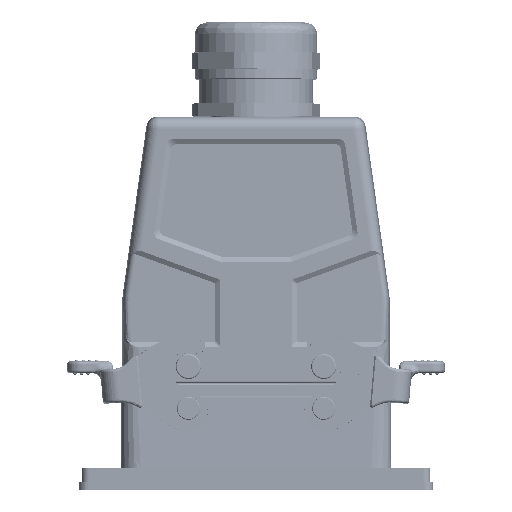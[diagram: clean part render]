
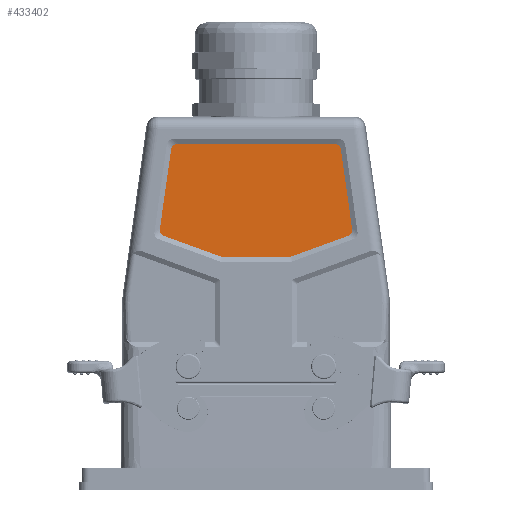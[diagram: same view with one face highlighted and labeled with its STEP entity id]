
A CAD part, top view. The second image highlights one B-rep face of the part: STEP entity #433402.
In plain terms, the highlighted planar face has unit normal (0, 0, 1).
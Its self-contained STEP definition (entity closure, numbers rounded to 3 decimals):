
#4631 = B_SPLINE_CURVE_WITH_KNOTS ( 'NONE', 3,
 ( #281754, #416652, #546030, #537526, #457055, #327613 ),
 .UNSPECIFIED., .F., .F.,
 ( 4, 2, 4 ),
 ( 0., 0.5, 1. ),
 .UNSPECIFIED. ) ;
#9378 = ORIENTED_EDGE ( 'NONE', *, *, #182710, .T. ) ;
#16621 = VERTEX_POINT ( 'NONE', #396718 ) ;
#20631 = CARTESIAN_POINT ( 'NONE',  ( 11.754, -2.268, 40.25 ) ) ;
#24154 = EDGE_CURVE ( 'NONE', #340725, #266696, #428857, .T. ) ;
#43974 = CARTESIAN_POINT ( 'NONE',  ( 33.7, 7.667, 40.25 ) ) ;
#57334 = CARTESIAN_POINT ( 'NONE',  ( 12.609, -2.117, 40.25 ) ) ;
#58413 = VERTEX_POINT ( 'NONE', #161929 ) ;
#61336 = CARTESIAN_POINT ( 'NONE',  ( -32.08, 4.97, 40.25 ) ) ;
#70928 = CARTESIAN_POINT ( 'NONE',  ( -11.754, -2.268, 40.25 ) ) ;
#71119 = B_SPLINE_CURVE_WITH_KNOTS ( 'NONE', 3,
 ( #20631, #491788, #144024, #100966 ),
 .UNSPECIFIED., .F., .F.,
 ( 4, 4 ),
 ( 0., 1. ),
 .UNSPECIFIED. ) ;
#71508 = CARTESIAN_POINT ( 'NONE',  ( -29.843, 35.116, 40.25 ) ) ;
#74314 = CARTESIAN_POINT ( 'NONE',  ( -29.744, 35.813, 40.25 ) ) ;
#76963 = CARTESIAN_POINT ( 'NONE',  ( 12.609, -2.117, 40.25 ) ) ;
#85121 = DIRECTION ( 'NONE',  ( 0., 0., 1. ) ) ;
#92806 = CARTESIAN_POINT ( 'NONE',  ( 33.7, 7.667, 40.25 ) ) ;
#98076 = ORIENTED_EDGE ( 'NONE', *, *, #476544, .T. ) ;
#100966 = CARTESIAN_POINT ( 'NONE',  ( 12.609, -2.117, 40.25 ) ) ;
#106836 = ORIENTED_EDGE ( 'NONE', *, *, #154645, .T. ) ;
#108071 = VECTOR ( 'NONE', #232402, 1000. ) ;
#108833 = LINE ( 'NONE', #57334, #108071 ) ;
#112737 = CARTESIAN_POINT ( 'NONE',  ( -32.698, 5.195, 40.25 ) ) ;
#114418 = CARTESIAN_POINT ( 'NONE',  ( -29.843, 35.116, 40.25 ) ) ;
#120089 = DIRECTION ( 'NONE',  ( -0.139, -0.99, 0. ) ) ;
#124505 = VERTEX_POINT ( 'NONE', #343856 ) ;
#129305 = CARTESIAN_POINT ( 'NONE',  ( 29.843, 35.116, 40.25 ) ) ;
#132972 = CARTESIAN_POINT ( 'NONE',  ( 33.699, 6.459, 40.25 ) ) ;
#144024 = CARTESIAN_POINT ( 'NONE',  ( 12.333, -2.218, 40.25 ) ) ;
#150184 = LINE ( 'NONE', #546677, #164634 ) ;
#154645 = EDGE_CURVE ( 'NONE', #291659, #58413, #4631, .T. ) ;
#157530 = EDGE_CURVE ( 'NONE', #163061, #340725, #508096, .T. ) ;
#159531 = CARTESIAN_POINT ( 'NONE',  ( -29.843, 35.116, 40.25 ) ) ;
#160443 = CARTESIAN_POINT ( 'NONE',  ( -28.07, 37.268, 40.25 ) ) ;
#161929 = CARTESIAN_POINT ( 'NONE',  ( 27.367, 37.268, 40.25 ) ) ;
#162118 = CARTESIAN_POINT ( 'NONE',  ( 33.7, 7.667, 40.25 ) ) ;
#163061 = VERTEX_POINT ( 'NONE', #159531 ) ;
#164634 = VECTOR ( 'NONE', #422940, 1000. ) ;
#168449 = DIRECTION ( 'NONE',  ( 1., 0., 0. ) ) ;
#181778 = CARTESIAN_POINT ( 'NONE',  ( 32.697, 5.194, 40.25 ) ) ;
#182710 = EDGE_CURVE ( 'NONE', #16621, #163061, #409835, .T. ) ;
#187593 = CARTESIAN_POINT ( 'NONE',  ( -31.046, 37.268, 40.25 ) ) ;
#187655 = VECTOR ( 'NONE', #256547, 1000. ) ;
#195249 = CARTESIAN_POINT ( 'NONE',  ( 33.144, 5.538, 40.25 ) ) ;
#198929 = VECTOR ( 'NONE', #526894, 1000. ) ;
#202617 = EDGE_CURVE ( 'NONE', #58413, #16621, #449108, .T. ) ;
#216999 = ORIENTED_EDGE ( 'NONE', *, *, #270279, .T. ) ;
#231857 = EDGE_CURVE ( 'NONE', #538833, #367879, #108833, .T. ) ;
#232402 = DIRECTION ( 'NONE',  ( 0.94, 0.342, 0. ) ) ;
#233542 = CARTESIAN_POINT ( 'NONE',  ( -33.698, 6.46, 40.25 ) ) ;
#234629 = AXIS2_PLACEMENT_3D ( 'NONE', #562028, #85121, #168449 ) ;
#235344 = EDGE_CURVE ( 'NONE', #266696, #437645, #150184, .T. ) ;
#248963 = LINE ( 'NONE', #280800, #260336 ) ;
#254690 = PLANE ( 'NONE',  #234629 ) ;
#256547 = DIRECTION ( 'NONE',  ( -0.139, 0.99, 0. ) ) ;
#260336 = VECTOR ( 'NONE', #329483, 1000. ) ;
#266696 = VERTEX_POINT ( 'NONE', #320496 ) ;
#267894 = LINE ( 'NONE', #43974, #187655 ) ;
#268901 = CARTESIAN_POINT ( 'NONE',  ( -12.609, -2.117, 40.25 ) ) ;
#270279 = EDGE_CURVE ( 'NONE', #367879, #554041, #429686, .T. ) ;
#280800 = CARTESIAN_POINT ( 'NONE',  ( -31.046, -2.268, 40.25 ) ) ;
#281754 = CARTESIAN_POINT ( 'NONE',  ( 29.843, 35.116, 40.25 ) ) ;
#289224 = CARTESIAN_POINT ( 'NONE',  ( -12.333, -2.218, 40.25 ) ) ;
#291659 = VERTEX_POINT ( 'NONE', #129305 ) ;
#298246 = CARTESIAN_POINT ( 'NONE',  ( -29.483, 36.346, 40.25 ) ) ;
#300619 = FACE_OUTER_BOUND ( 'NONE', #382799, .T. ) ;
#302335 = B_SPLINE_CURVE_WITH_KNOTS ( 'NONE', 3,
 ( #332215, #289224, #464538, #70928 ),
 .UNSPECIFIED., .F., .F.,
 ( 4, 4 ),
 ( 0., 1. ),
 .UNSPECIFIED. ) ;
#320496 = CARTESIAN_POINT ( 'NONE',  ( -32.08, 4.97, 40.25 ) ) ;
#327613 = CARTESIAN_POINT ( 'NONE',  ( 27.367, 37.268, 40.25 ) ) ;
#329483 = DIRECTION ( 'NONE',  ( 1., 0., 0. ) ) ;
#332215 = CARTESIAN_POINT ( 'NONE',  ( -12.609, -2.117, 40.25 ) ) ;
#340725 = VERTEX_POINT ( 'NONE', #380389 ) ;
#343856 = CARTESIAN_POINT ( 'NONE',  ( -11.754, -2.268, 40.25 ) ) ;
#354127 = CARTESIAN_POINT ( 'NONE',  ( 32.08, 4.97, 40.25 ) ) ;
#358592 = ORIENTED_EDGE ( 'NONE', *, *, #24154, .T. ) ;
#364507 = ORIENTED_EDGE ( 'NONE', *, *, #523911, .T. ) ;
#367879 = VERTEX_POINT ( 'NONE', #542303 ) ;
#371723 = ORIENTED_EDGE ( 'NONE', *, *, #157530, .T. ) ;
#380389 = CARTESIAN_POINT ( 'NONE',  ( -33.7, 7.667, 40.25 ) ) ;
#382799 = EDGE_LOOP ( 'NONE', ( #558717, #510611, #216999, #98076, #106836, #416088, #9378, #371723, #358592, #445829, #433831, #364507 ) ) ;
#394372 = VERTEX_POINT ( 'NONE', #475562 ) ;
#396718 = CARTESIAN_POINT ( 'NONE',  ( -27.367, 37.268, 40.25 ) ) ;
#408679 = VECTOR ( 'NONE', #120089, 1000. ) ;
#409773 = EDGE_CURVE ( 'NONE', #437645, #124505, #302335, .T. ) ;
#409835 = B_SPLINE_CURVE_WITH_KNOTS ( 'NONE', 3,
 ( #554015, #160443, #467924, #298246, #74314, #71508 ),
 .UNSPECIFIED., .F., .F.,
 ( 4, 2, 4 ),
 ( 0., 0.5, 1. ),
 .UNSPECIFIED. ) ;
#416088 = ORIENTED_EDGE ( 'NONE', *, *, #202617, .T. ) ;
#416652 = CARTESIAN_POINT ( 'NONE',  ( 29.745, 35.812, 40.25 ) ) ;
#422940 = DIRECTION ( 'NONE',  ( 0.94, -0.342, 0. ) ) ;
#428857 = B_SPLINE_CURVE_WITH_KNOTS ( 'NONE', 3,
 ( #454844, #497891, #233542, #509258, #112737, #61336 ),
 .UNSPECIFIED., .F., .F.,
 ( 4, 2, 4 ),
 ( 0., 0.5, 1. ),
 .UNSPECIFIED. ) ;
#429686 = B_SPLINE_CURVE_WITH_KNOTS ( 'NONE', 3,
 ( #354127, #181778, #195249, #132972, #545777, #92806 ),
 .UNSPECIFIED., .F., .F.,
 ( 4, 2, 4 ),
 ( 0., 0.5, 1. ),
 .UNSPECIFIED. ) ;
#433402 = ADVANCED_FACE ( 'NONE', ( #300619 ), #254690, .T. ) ;
#433831 = ORIENTED_EDGE ( 'NONE', *, *, #409773, .T. ) ;
#437645 = VERTEX_POINT ( 'NONE', #268901 ) ;
#445829 = ORIENTED_EDGE ( 'NONE', *, *, #235344, .T. ) ;
#449108 = LINE ( 'NONE', #187593, #198929 ) ;
#454844 = CARTESIAN_POINT ( 'NONE',  ( -33.7, 7.667, 40.25 ) ) ;
#457055 = CARTESIAN_POINT ( 'NONE',  ( 28.071, 37.268, 40.25 ) ) ;
#464538 = CARTESIAN_POINT ( 'NONE',  ( -12.048, -2.268, 40.25 ) ) ;
#467924 = CARTESIAN_POINT ( 'NONE',  ( -28.635, 37.083, 40.25 ) ) ;
#475562 = CARTESIAN_POINT ( 'NONE',  ( 11.754, -2.268, 40.25 ) ) ;
#476544 = EDGE_CURVE ( 'NONE', #554041, #291659, #267894, .T. ) ;
#491788 = CARTESIAN_POINT ( 'NONE',  ( 12.048, -2.268, 40.25 ) ) ;
#497891 = CARTESIAN_POINT ( 'NONE',  ( -33.792, 7.017, 40.25 ) ) ;
#508096 = LINE ( 'NONE', #114418, #408679 ) ;
#509258 = CARTESIAN_POINT ( 'NONE',  ( -33.145, 5.538, 40.25 ) ) ;
#510611 = ORIENTED_EDGE ( 'NONE', *, *, #231857, .T. ) ;
#515386 = EDGE_CURVE ( 'NONE', #394372, #538833, #71119, .T. ) ;
#523911 = EDGE_CURVE ( 'NONE', #124505, #394372, #248963, .T. ) ;
#526894 = DIRECTION ( 'NONE',  ( -1., 0., 0. ) ) ;
#537526 = CARTESIAN_POINT ( 'NONE',  ( 28.635, 37.084, 40.25 ) ) ;
#538833 = VERTEX_POINT ( 'NONE', #76963 ) ;
#542303 = CARTESIAN_POINT ( 'NONE',  ( 32.08, 4.97, 40.25 ) ) ;
#545777 = CARTESIAN_POINT ( 'NONE',  ( 33.792, 7.015, 40.25 ) ) ;
#546030 = CARTESIAN_POINT ( 'NONE',  ( 29.483, 36.346, 40.25 ) ) ;
#546677 = CARTESIAN_POINT ( 'NONE',  ( -32.08, 4.97, 40.25 ) ) ;
#554015 = CARTESIAN_POINT ( 'NONE',  ( -27.367, 37.268, 40.25 ) ) ;
#554041 = VERTEX_POINT ( 'NONE', #162118 ) ;
#558717 = ORIENTED_EDGE ( 'NONE', *, *, #515386, .T. ) ;
#562028 = CARTESIAN_POINT ( 'NONE',  ( -37.089, -4., 40.25 ) ) ;
